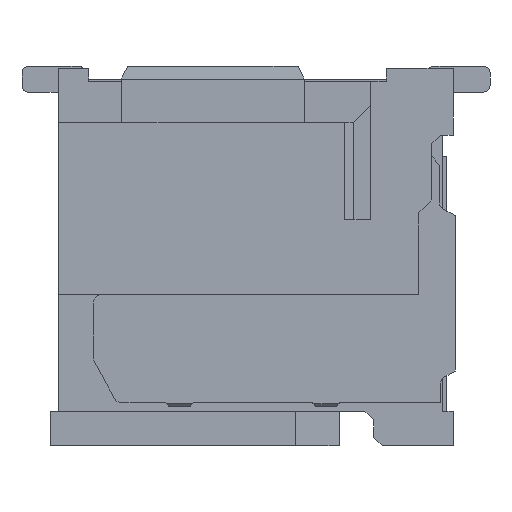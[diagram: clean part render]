
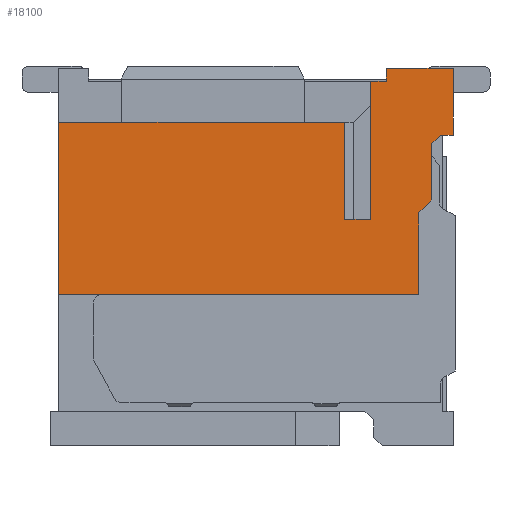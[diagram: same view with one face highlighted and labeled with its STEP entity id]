
A CAD part, left-side view. The second image highlights one B-rep face of the part: STEP entity #18100.
In plain terms, the highlighted planar face has unit normal (-1, 0, 0).
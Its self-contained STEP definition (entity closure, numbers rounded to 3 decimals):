
#435 = DIRECTION ( 'NONE',  ( 0., 0., -1. ) ) ;
#858 = LINE ( 'NONE', #12851, #57008 ) ;
#1450 = LINE ( 'NONE', #47196, #39098 ) ;
#2697 = VECTOR ( 'NONE', #58231, 1000. ) ;
#5223 = VERTEX_POINT ( 'NONE', #44229 ) ;
#5575 = VECTOR ( 'NONE', #64095, 1000. ) ;
#5652 = CARTESIAN_POINT ( 'NONE',  ( 19.8, 0.3, -1.55 ) ) ;
#6637 = ORIENTED_EDGE ( 'NONE', *, *, #46323, .T. ) ;
#7103 = PLANE ( 'NONE',  #37170 ) ;
#8069 = ORIENTED_EDGE ( 'NONE', *, *, #20779, .T. ) ;
#9063 = VECTOR ( 'NONE', #13261, 1000. ) ;
#9314 = EDGE_CURVE ( 'NONE', #35112, #47194, #18525, .T. ) ;
#9317 = DIRECTION ( 'NONE',  ( 0., -1., 0. ) ) ;
#10166 = EDGE_CURVE ( 'NONE', #51889, #11883, #68363, .T. ) ;
#10208 = EDGE_CURVE ( 'NONE', #23345, #35112, #41037, .T. ) ;
#10268 = VECTOR ( 'NONE', #22700, 1000. ) ;
#11328 = EDGE_LOOP ( 'NONE', ( #22866, #26564, #40298, #73002, #6637, #50002, #63520, #8069, #57897, #12989, #64723, #68862, #28709, #26661, #19872 ) ) ;
#11883 = VERTEX_POINT ( 'NONE', #43163 ) ;
#12110 = DIRECTION ( 'NONE',  ( 0., 0.707, -0.707 ) ) ;
#12851 = CARTESIAN_POINT ( 'NONE',  ( 19.8, 0.5, -3.05 ) ) ;
#12989 = ORIENTED_EDGE ( 'NONE', *, *, #60501, .F. ) ;
#13261 = DIRECTION ( 'NONE',  ( 0., -1., 0. ) ) ;
#16547 = EDGE_CURVE ( 'NONE', #5223, #23345, #59717, .T. ) ;
#16703 = CARTESIAN_POINT ( 'NONE',  ( 19.8, 0.8, -5.25 ) ) ;
#16950 = CARTESIAN_POINT ( 'NONE',  ( 19.8, 1.92, -0.3 ) ) ;
#17851 = VECTOR ( 'NONE', #9317, 1000. ) ;
#18100 = ADVANCED_FACE ( 'NONE', ( #18370 ), #7103, .F. ) ;
#18370 = FACE_OUTER_BOUND ( 'NONE', #11328, .T. ) ;
#18525 = LINE ( 'NONE', #41377, #9063 ) ;
#19872 = ORIENTED_EDGE ( 'NONE', *, *, #9314, .F. ) ;
#19992 = CARTESIAN_POINT ( 'NONE',  ( 19.8, 1.92, -0.3 ) ) ;
#20779 = EDGE_CURVE ( 'NONE', #46603, #50219, #29523, .T. ) ;
#21027 = VECTOR ( 'NONE', #61667, 1000. ) ;
#22700 = DIRECTION ( 'NONE',  ( 0., 0., 1. ) ) ;
#22866 = ORIENTED_EDGE ( 'NONE', *, *, #10208, .F. ) ;
#22944 = VECTOR ( 'NONE', #48852, 1000. ) ;
#22954 = CARTESIAN_POINT ( 'NONE',  ( 19.8, 0., -1.55 ) ) ;
#23345 = VERTEX_POINT ( 'NONE', #63661 ) ;
#24946 = EDGE_CURVE ( 'NONE', #34191, #11883, #73235, .T. ) ;
#25055 = CARTESIAN_POINT ( 'NONE',  ( 19.8, 0.8, -5.25 ) ) ;
#25416 = EDGE_CURVE ( 'NONE', #5223, #36636, #34572, .T. ) ;
#26121 = EDGE_CURVE ( 'NONE', #34191, #38841, #37828, .T. ) ;
#26381 = LINE ( 'NONE', #66425, #63180 ) ;
#26388 = DIRECTION ( 'NONE',  ( 0., -1., 0. ) ) ;
#26564 = ORIENTED_EDGE ( 'NONE', *, *, #16547, .F. ) ;
#26661 = ORIENTED_EDGE ( 'NONE', *, *, #63553, .F. ) ;
#27146 = VERTEX_POINT ( 'NONE', #28819 ) ;
#27346 = VERTEX_POINT ( 'NONE', #65459 ) ;
#28709 = ORIENTED_EDGE ( 'NONE', *, *, #26121, .T. ) ;
#28819 = CARTESIAN_POINT ( 'NONE',  ( 19.8, 0.8, -3.35 ) ) ;
#29523 = LINE ( 'NONE', #53845, #69159 ) ;
#29995 = CARTESIAN_POINT ( 'NONE',  ( 19.8, 4.575, -2.625 ) ) ;
#32420 = VERTEX_POINT ( 'NONE', #66334 ) ;
#33842 = VERTEX_POINT ( 'NONE', #39872 ) ;
#34103 = DIRECTION ( 'NONE',  ( 0., 0., -1. ) ) ;
#34191 = VERTEX_POINT ( 'NONE', #5652 ) ;
#34572 = LINE ( 'NONE', #16950, #69402 ) ;
#35112 = VERTEX_POINT ( 'NONE', #50295 ) ;
#35192 = CARTESIAN_POINT ( 'NONE',  ( 19.8, 1.92, -3.5 ) ) ;
#35373 = LINE ( 'NONE', #69077, #2697 ) ;
#36636 = VERTEX_POINT ( 'NONE', #35192 ) ;
#37170 = AXIS2_PLACEMENT_3D ( 'NONE', #29995, #41590, #64445 ) ;
#37828 = LINE ( 'NONE', #60672, #17851 ) ;
#38841 = VERTEX_POINT ( 'NONE', #22954 ) ;
#39098 = VECTOR ( 'NONE', #34103, 1000. ) ;
#39543 = DIRECTION ( 'NONE',  ( 0., 0.707, -0.707 ) ) ;
#39872 = CARTESIAN_POINT ( 'NONE',  ( 19.8, 9.15, -1.25 ) ) ;
#40298 = ORIENTED_EDGE ( 'NONE', *, *, #25416, .T. ) ;
#40522 = LINE ( 'NONE', #64469, #5575 ) ;
#41037 = LINE ( 'NONE', #73993, #10268 ) ;
#41377 = CARTESIAN_POINT ( 'NONE',  ( 19.8, 1.55, 0. ) ) ;
#41590 = DIRECTION ( 'NONE',  ( 1., 0., 0. ) ) ;
#42628 = VECTOR ( 'NONE', #56778, 1000. ) ;
#43163 = CARTESIAN_POINT ( 'NONE',  ( 19.8, 0.5, -1.75 ) ) ;
#43956 = CARTESIAN_POINT ( 'NONE',  ( 19.8, 2.52, -3.5 ) ) ;
#44229 = CARTESIAN_POINT ( 'NONE',  ( 19.8, 1.92, -0.3 ) ) ;
#46323 = EDGE_CURVE ( 'NONE', #32420, #27346, #60088, .T. ) ;
#46603 = VERTEX_POINT ( 'NONE', #52578 ) ;
#47194 = VERTEX_POINT ( 'NONE', #55069 ) ;
#47196 = CARTESIAN_POINT ( 'NONE',  ( 19.8, 0., 0. ) ) ;
#48852 = DIRECTION ( 'NONE',  ( 0., -1., 0. ) ) ;
#49377 = VECTOR ( 'NONE', #65687, 1000. ) ;
#49651 = CARTESIAN_POINT ( 'NONE',  ( 19.8, 0.5, -3.05 ) ) ;
#50002 = ORIENTED_EDGE ( 'NONE', *, *, #51007, .T. ) ;
#50219 = VERTEX_POINT ( 'NONE', #25055 ) ;
#50295 = CARTESIAN_POINT ( 'NONE',  ( 19.8, 1.55, 0. ) ) ;
#51007 = EDGE_CURVE ( 'NONE', #27346, #33842, #35373, .T. ) ;
#51889 = VERTEX_POINT ( 'NONE', #49651 ) ;
#52578 = CARTESIAN_POINT ( 'NONE',  ( 19.8, 9.15, -5.25 ) ) ;
#52675 = VECTOR ( 'NONE', #39543, 1000. ) ;
#53845 = CARTESIAN_POINT ( 'NONE',  ( 19.8, 9.15, -5.25 ) ) ;
#55069 = CARTESIAN_POINT ( 'NONE',  ( 19.8, 0., 0. ) ) ;
#56310 = DIRECTION ( 'NONE',  ( 0., -1., 0. ) ) ;
#56778 = DIRECTION ( 'NONE',  ( 0., 0., 1. ) ) ;
#57008 = VECTOR ( 'NONE', #12110, 1000. ) ;
#57897 = ORIENTED_EDGE ( 'NONE', *, *, #59689, .T. ) ;
#58231 = DIRECTION ( 'NONE',  ( 0., 1., 0. ) ) ;
#59689 = EDGE_CURVE ( 'NONE', #50219, #27146, #62038, .T. ) ;
#59717 = LINE ( 'NONE', #19992, #22944 ) ;
#60088 = LINE ( 'NONE', #43956, #49377 ) ;
#60501 = EDGE_CURVE ( 'NONE', #51889, #27146, #858, .T. ) ;
#60672 = CARTESIAN_POINT ( 'NONE',  ( 19.8, 0.3, -1.55 ) ) ;
#61667 = DIRECTION ( 'NONE',  ( 0., 0., 1. ) ) ;
#62038 = LINE ( 'NONE', #16703, #21027 ) ;
#63180 = VECTOR ( 'NONE', #56310, 1000. ) ;
#63520 = ORIENTED_EDGE ( 'NONE', *, *, #64169, .F. ) ;
#63553 = EDGE_CURVE ( 'NONE', #47194, #38841, #1450, .T. ) ;
#63661 = CARTESIAN_POINT ( 'NONE',  ( 19.8, 1.55, -0.3 ) ) ;
#64095 = DIRECTION ( 'NONE',  ( 0., 0., 1. ) ) ;
#64169 = EDGE_CURVE ( 'NONE', #46603, #33842, #40522, .T. ) ;
#64445 = DIRECTION ( 'NONE',  ( 0., 1., 0. ) ) ;
#64469 = CARTESIAN_POINT ( 'NONE',  ( 19.8, 9.15, -5.25 ) ) ;
#64723 = ORIENTED_EDGE ( 'NONE', *, *, #10166, .T. ) ;
#65459 = CARTESIAN_POINT ( 'NONE',  ( 19.8, 2.52, -1.25 ) ) ;
#65687 = DIRECTION ( 'NONE',  ( 0., 0., 1. ) ) ;
#66334 = CARTESIAN_POINT ( 'NONE',  ( 19.8, 2.52, -3.5 ) ) ;
#66425 = CARTESIAN_POINT ( 'NONE',  ( 19.8, 2.52, -3.5 ) ) ;
#66871 = CARTESIAN_POINT ( 'NONE',  ( 19.8, 0.3, -1.55 ) ) ;
#68363 = LINE ( 'NONE', #69859, #42628 ) ;
#68862 = ORIENTED_EDGE ( 'NONE', *, *, #24946, .F. ) ;
#69077 = CARTESIAN_POINT ( 'NONE',  ( 19.8, 2.52, -1.25 ) ) ;
#69159 = VECTOR ( 'NONE', #26388, 1000. ) ;
#69402 = VECTOR ( 'NONE', #435, 1000. ) ;
#69859 = CARTESIAN_POINT ( 'NONE',  ( 19.8, 0.5, -3.05 ) ) ;
#70667 = EDGE_CURVE ( 'NONE', #32420, #36636, #26381, .T. ) ;
#73002 = ORIENTED_EDGE ( 'NONE', *, *, #70667, .F. ) ;
#73235 = LINE ( 'NONE', #66871, #52675 ) ;
#73993 = CARTESIAN_POINT ( 'NONE',  ( 19.8, 1.55, -0.3 ) ) ;
